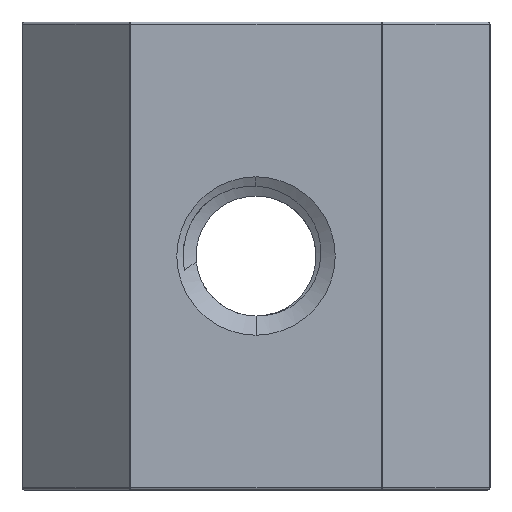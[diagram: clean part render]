
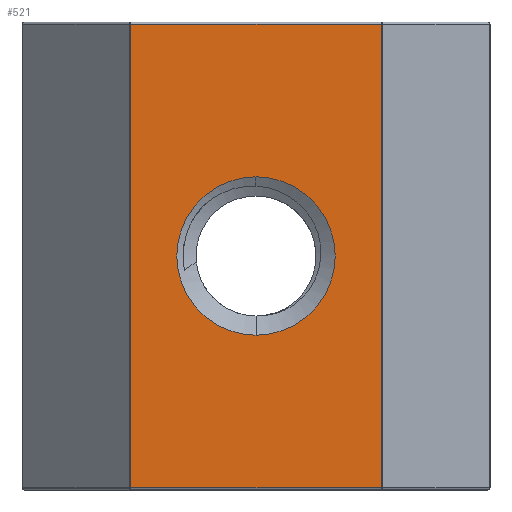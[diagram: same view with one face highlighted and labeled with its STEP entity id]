
A CAD part, front view. The second image highlights one B-rep face of the part: STEP entity #521.
In plain terms, the highlighted planar face has unit normal (0, -1, 0).
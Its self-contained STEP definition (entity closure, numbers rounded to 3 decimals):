
#24 = LINE ( 'NONE', #2137, #1796 ) ;
#60 = CARTESIAN_POINT ( 'NONE',  ( 5.209, -4.75, -9.65 ) ) ;
#89 = DIRECTION ( 'NONE',  ( 0., 1., 0. ) ) ;
#158 = EDGE_CURVE ( 'NONE', #1887, #1362, #4326, .T. ) ;
#290 = ORIENTED_EDGE ( 'NONE', *, *, #158, .T. ) ;
#320 = VECTOR ( 'NONE', #4129, 1000. ) ;
#365 = CARTESIAN_POINT ( 'NONE',  ( 0., -4.75, 0. ) ) ;
#521 = ADVANCED_FACE ( 'NONE', ( #1063, #3734 ), #1423, .F. ) ;
#681 = CARTESIAN_POINT ( 'NONE',  ( -5.209, -4.75, 9.75 ) ) ;
#687 = VECTOR ( 'NONE', #3345, 1000. ) ;
#701 = LINE ( 'NONE', #681, #687 ) ;
#724 = DIRECTION ( 'NONE',  ( 0., 0., 1. ) ) ;
#730 = ORIENTED_EDGE ( 'NONE', *, *, #1235, .T. ) ;
#781 = CARTESIAN_POINT ( 'NONE',  ( -9.75, -4.75, 9.65 ) ) ;
#862 = DIRECTION ( 'NONE',  ( 0., 0., 1. ) ) ;
#1063 = FACE_BOUND ( 'NONE', #3740, .T. ) ;
#1095 = CARTESIAN_POINT ( 'NONE',  ( 0., -4.75, 0. ) ) ;
#1104 = CARTESIAN_POINT ( 'NONE',  ( 5.209, -4.75, 9.65 ) ) ;
#1186 = EDGE_CURVE ( 'NONE', #3027, #3054, #24, .T. ) ;
#1235 = EDGE_CURVE ( 'NONE', #2922, #3476, #2383, .T. ) ;
#1362 = VERTEX_POINT ( 'NONE', #2573 ) ;
#1423 = PLANE ( 'NONE',  #3419 ) ;
#1428 = ORIENTED_EDGE ( 'NONE', *, *, #1186, .T. ) ;
#1530 = CARTESIAN_POINT ( 'NONE',  ( 0., -4.75, -3.3 ) ) ;
#1681 = DIRECTION ( 'NONE',  ( 0., 0., 1. ) ) ;
#1696 = ORIENTED_EDGE ( 'NONE', *, *, #1983, .T. ) ;
#1706 = EDGE_LOOP ( 'NONE', ( #730, #1696, #1428, #2055 ) ) ;
#1755 = CARTESIAN_POINT ( 'NONE',  ( -9.75, -4.75, 9.75 ) ) ;
#1796 = VECTOR ( 'NONE', #3125, 1000. ) ;
#1887 = VERTEX_POINT ( 'NONE', #1530 ) ;
#1903 = ORIENTED_EDGE ( 'NONE', *, *, #4276, .T. ) ;
#1983 = EDGE_CURVE ( 'NONE', #3476, #3027, #701, .T. ) ;
#2021 = DIRECTION ( 'NONE',  ( 0., 1., 0. ) ) ;
#2055 = ORIENTED_EDGE ( 'NONE', *, *, #2416, .T. ) ;
#2067 = DIRECTION ( 'NONE',  ( 0., 1., 0. ) ) ;
#2137 = CARTESIAN_POINT ( 'NONE',  ( 5.25, -4.75, -9.65 ) ) ;
#2267 = CARTESIAN_POINT ( 'NONE',  ( -5.209, -4.75, -9.65 ) ) ;
#2383 = LINE ( 'NONE', #781, #320 ) ;
#2416 = EDGE_CURVE ( 'NONE', #3054, #2922, #3902, .T. ) ;
#2573 = CARTESIAN_POINT ( 'NONE',  ( 0., -4.75, 3.3 ) ) ;
#2594 = AXIS2_PLACEMENT_3D ( 'NONE', #365, #2021, #1681 ) ;
#2922 = VERTEX_POINT ( 'NONE', #1104 ) ;
#3027 = VERTEX_POINT ( 'NONE', #2267 ) ;
#3054 = VERTEX_POINT ( 'NONE', #60 ) ;
#3125 = DIRECTION ( 'NONE',  ( 1., 0., 0. ) ) ;
#3199 = AXIS2_PLACEMENT_3D ( 'NONE', #1095, #2067, #4085 ) ;
#3345 = DIRECTION ( 'NONE',  ( 0., 0., -1. ) ) ;
#3381 = CIRCLE ( 'NONE', #2594, 3.3 ) ;
#3419 = AXIS2_PLACEMENT_3D ( 'NONE', #1755, #89, #724 ) ;
#3476 = VERTEX_POINT ( 'NONE', #4274 ) ;
#3561 = CARTESIAN_POINT ( 'NONE',  ( 5.209, -4.75, 9.75 ) ) ;
#3734 = FACE_OUTER_BOUND ( 'NONE', #1706, .T. ) ;
#3740 = EDGE_LOOP ( 'NONE', ( #1903, #290 ) ) ;
#3802 = VECTOR ( 'NONE', #862, 1000. ) ;
#3902 = LINE ( 'NONE', #3561, #3802 ) ;
#4085 = DIRECTION ( 'NONE',  ( 0., 0., 1. ) ) ;
#4129 = DIRECTION ( 'NONE',  ( -1., 0., 0. ) ) ;
#4274 = CARTESIAN_POINT ( 'NONE',  ( -5.209, -4.75, 9.65 ) ) ;
#4276 = EDGE_CURVE ( 'NONE', #1362, #1887, #3381, .T. ) ;
#4326 = CIRCLE ( 'NONE', #3199, 3.3 ) ;
